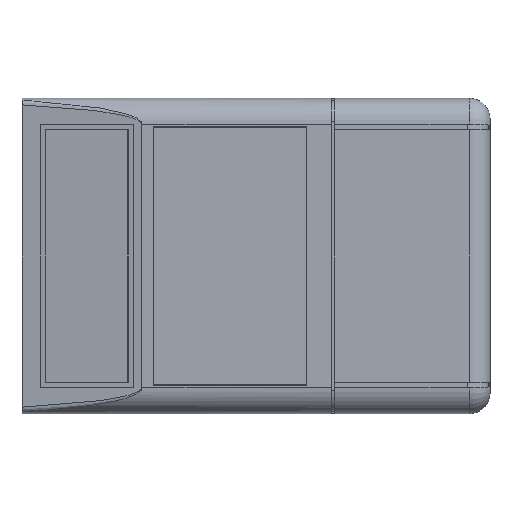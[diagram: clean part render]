
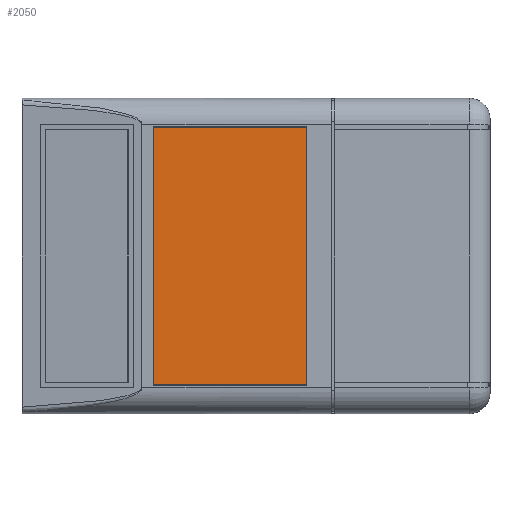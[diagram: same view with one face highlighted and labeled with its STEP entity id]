
A CAD part, front view. The second image highlights one B-rep face of the part: STEP entity #2050.
In plain terms, the highlighted planar face has unit normal (0, -1, 0).
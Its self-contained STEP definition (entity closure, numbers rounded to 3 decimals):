
#50 = DIRECTION ( 'NONE',  ( 0., 0., -1. ) ) ;
#116 = ORIENTED_EDGE ( 'NONE', *, *, #14696, .F. ) ;
#425 = VECTOR ( 'NONE', #50, 1000. ) ;
#750 = CARTESIAN_POINT ( 'NONE',  ( -24.71, 0., -14.7 ) ) ;
#1027 = ORIENTED_EDGE ( 'NONE', *, *, #15060, .F. ) ;
#1303 = DIRECTION ( 'NONE',  ( 1., 0., 0. ) ) ;
#1630 = VECTOR ( 'NONE', #12115, 1000. ) ;
#1855 = VERTEX_POINT ( 'NONE', #15730 ) ;
#2017 = CARTESIAN_POINT ( 'NONE',  ( 0., 0., 0. ) ) ;
#2050 = ADVANCED_FACE ( 'NONE', ( #9006 ), #5835, .F. ) ;
#2653 = CARTESIAN_POINT ( 'NONE',  ( -24.71, 0., -14.7 ) ) ;
#3452 = DIRECTION ( 'NONE',  ( 0., 0., 1. ) ) ;
#4058 = CARTESIAN_POINT ( 'NONE',  ( 24.71, 0., -14.7 ) ) ;
#5608 = VERTEX_POINT ( 'NONE', #12995 ) ;
#5835 = PLANE ( 'NONE',  #15842 ) ;
#7193 = DIRECTION ( 'NONE',  ( 0., 1., 0. ) ) ;
#7910 = ORIENTED_EDGE ( 'NONE', *, *, #12758, .F. ) ;
#8538 = DIRECTION ( 'NONE',  ( 0., 0., 1. ) ) ;
#8542 = CARTESIAN_POINT ( 'NONE',  ( -24.71, 0., -14.7 ) ) ;
#8883 = VERTEX_POINT ( 'NONE', #14066 ) ;
#9006 = FACE_OUTER_BOUND ( 'NONE', #15896, .T. ) ;
#9412 = VERTEX_POINT ( 'NONE', #8542 ) ;
#9646 = LINE ( 'NONE', #2653, #1630 ) ;
#10419 = LINE ( 'NONE', #750, #13592 ) ;
#10825 = LINE ( 'NONE', #13446, #14440 ) ;
#10985 = ORIENTED_EDGE ( 'NONE', *, *, #16759, .F. ) ;
#12115 = DIRECTION ( 'NONE',  ( -1., 0., 0. ) ) ;
#12758 = EDGE_CURVE ( 'NONE', #1855, #9412, #9646, .T. ) ;
#12995 = CARTESIAN_POINT ( 'NONE',  ( -24.71, 0., 14.7 ) ) ;
#13446 = CARTESIAN_POINT ( 'NONE',  ( -24.71, 0., 14.7 ) ) ;
#13592 = VECTOR ( 'NONE', #3452, 1000. ) ;
#14066 = CARTESIAN_POINT ( 'NONE',  ( 24.71, 0., 14.7 ) ) ;
#14377 = LINE ( 'NONE', #4058, #425 ) ;
#14440 = VECTOR ( 'NONE', #1303, 1000. ) ;
#14696 = EDGE_CURVE ( 'NONE', #9412, #5608, #10419, .T. ) ;
#15060 = EDGE_CURVE ( 'NONE', #5608, #8883, #10825, .T. ) ;
#15730 = CARTESIAN_POINT ( 'NONE',  ( 24.71, 0., -14.7 ) ) ;
#15842 = AXIS2_PLACEMENT_3D ( 'NONE', #2017, #7193, #8538 ) ;
#15896 = EDGE_LOOP ( 'NONE', ( #116, #7910, #10985, #1027 ) ) ;
#16759 = EDGE_CURVE ( 'NONE', #8883, #1855, #14377, .T. ) ;
